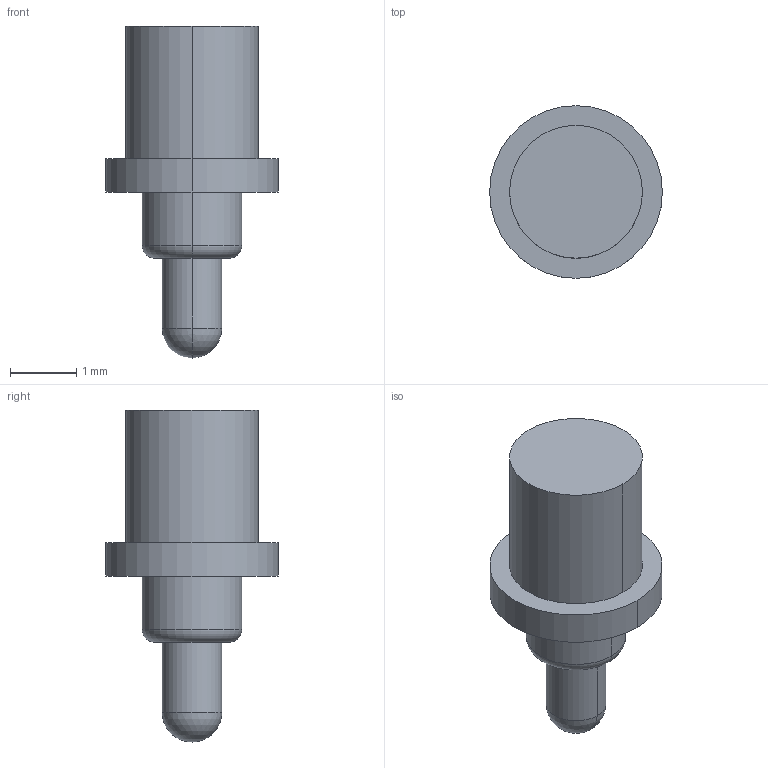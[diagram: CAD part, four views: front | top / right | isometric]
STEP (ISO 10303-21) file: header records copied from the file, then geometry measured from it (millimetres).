
FILE_DESCRIPTION((''),'2;1');
FILE_NAME('PRT0002','2023-05-26T14:23:37',('USER'),(''),'CREO PARAMETRIC BY PTC INC, 2020154','CREO PARAMETRIC BY PTC INC, 2020154','');
FILE_SCHEMA(('CONFIG_CONTROL_DESIGN'));
Length unit declared in the file: millimetre
Products named in the file (1): PRT0002
Bounding box: 2.6 x 2.6 x 5 mm (x, y, z)
Volume: 11.5 mm3; surface area: 35.2 mm2
Topology: 1 solids, 1 shells, 16 faces, 32 edges, 19 vertices
Faces by surface type: cylinder 8, plane 4, torus 2, sphere 2
Entity records: 450 total; most frequent: DIRECTION 84, CARTESIAN_POINT 65, ORIENTED_EDGE 60, AXIS2_PLACEMENT_3D 38, EDGE_CURVE 30, CIRCLE 22, VERTEX_POINT 19, EDGE_LOOP 19
